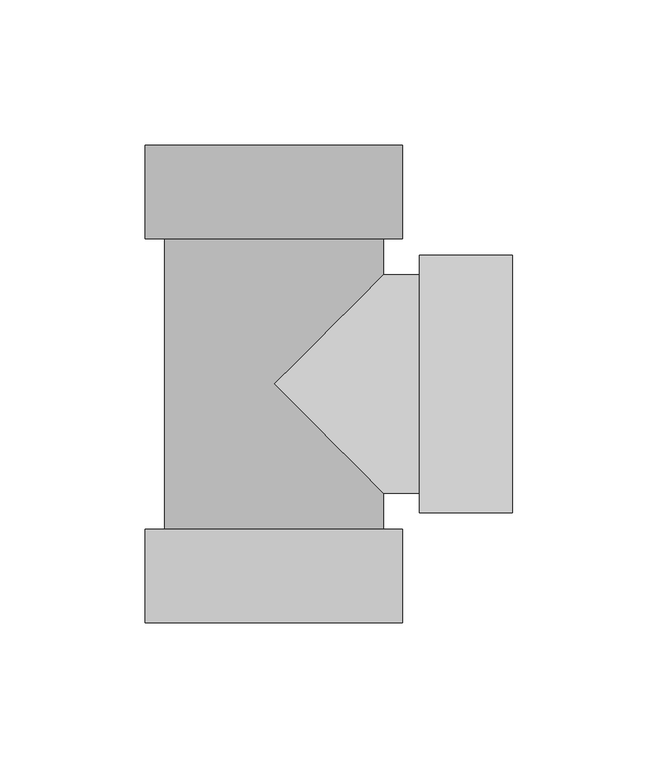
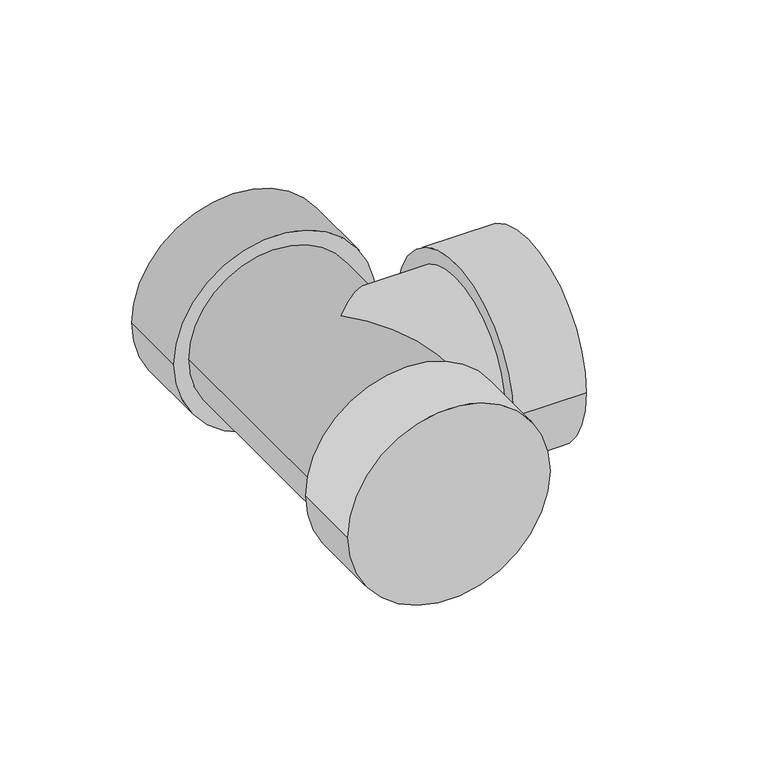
"""IFC4 building model written with IfcOpenShell, lengths in millimetres: pipe fitting geometry, 01011003 : Tê a 90º."""

import ifcopenshell
import ifcopenshell.guid

model = None  # the IFC model being written
_history = None  # IfcOwnerHistory: only IFC2X3 demands one
_inside = {}  # id of a spatial element -> (the spatial element, [elements in it])
_under = {}  # id of a project, library or spatial element -> (it, [spatial elements below it])
_declared = {}  # id of a project -> (the project, [libraries it declares])
_typed = {}  # id of a type object -> (the type object, [elements of that type])
_made_of = {}  # id of a material, layer set ... -> (it, [elements and type objects made of it])


def new_model(schema):
    """Start an empty IFC model of exactly this schema.

    Asked for "IFC4X3", IfcOpenShell would pick the latest addendum, in which some entities
    have other attributes; the version numbers below select the first issue.
    IFC2X3 requires an IfcOwnerHistory on every rooted entity: one is made here for all.
    """
    global model, _history
    if schema == "IFC4X3":
        model = ifcopenshell.file(schema_version=(4, 3, 0, 0))
    else:
        model = ifcopenshell.file(schema=schema)
    _inside.clear()
    _under.clear()
    _declared.clear()
    _typed.clear()
    _made_of.clear()
    _history = None
    if model.schema == "IFC2X3":
        org = make("IfcOrganization", Name="unknown")
        user = make(
            "IfcPersonAndOrganization",
            ThePerson=make("IfcPerson", FamilyName="unknown"),
            TheOrganization=org,
        )
        app = make(
            "IfcApplication",
            ApplicationDeveloper=org,
            Version="unknown",
            ApplicationFullName="unknown",
            ApplicationIdentifier="unknown",
        )
        _history = make(
            "IfcOwnerHistory",
            OwningUser=user,
            OwningApplication=app,
            ChangeAction="ADDED",
            CreationDate=0,
        )
    return model


def make(cls, **values):
    """One entity of the class cls with the attributes given. An attribute that is None is left unset."""
    return model.create_entity(
        cls, **{name: value for name, value in values.items() if value is not None}
    )


def rooted(cls, **values):
    """An entity with a GlobalId (a new one), such as an element, a storey or a relation."""
    return make(cls, GlobalId=ifcopenshell.guid.new(), OwnerHistory=_history, **values)


def si_unit(unit_type, name, prefix=None):
    """IfcSIUnit, for example si_unit("LENGTHUNIT", "METRE", prefix="MILLI")."""
    return make("IfcSIUnit", UnitType=unit_type, Prefix=prefix, Name=name)


def assignment(units):
    """IfcUnitAssignment: the units of a project."""
    return None if units is None else make("IfcUnitAssignment", Units=units)


def point(xyz):
    """IfcCartesianPoint."""
    return None if xyz is None else make("IfcCartesianPoint", Coordinates=xyz)


def direction(xyz):
    """IfcDirection."""
    return None if xyz is None else make("IfcDirection", DirectionRatios=xyz)


def frame(location, z_axis=None, x_axis=None):
    """IfcAxis2Placement3D, a coordinate frame: its origin and axes. An axis left out is left unset."""
    return make(
        "IfcAxis2Placement3D",
        Location=point(location),
        Axis=direction(z_axis),
        RefDirection=direction(x_axis),
    )


def frame_2d(location, x_axis=None):
    """IfcAxis2Placement2D, a coordinate frame in the plane: its origin and x axis."""
    return make(
        "IfcAxis2Placement2D", Location=point(location), RefDirection=direction(x_axis)
    )


def origin():
    """The frame at (0, 0, 0) with its axes left unset."""
    return frame((0.0, 0.0, 0.0))


def origin_2d():
    """The frame at (0, 0) in the plane with its x axis left unset."""
    return frame_2d((0.0, 0.0))


def place(relative_to, where):
    """IfcLocalPlacement: puts the frame where relative to a parent placement (None: the world)."""
    return make(
        "IfcLocalPlacement", PlacementRelTo=relative_to, RelativePlacement=where
    )


def context(
    kind, dimensions, precision=None, world=None, true_north=None, identifier=None
):
    """IfcGeometricRepresentationContext, for example the 3D "Model" context."""
    return make(
        "IfcGeometricRepresentationContext",
        ContextIdentifier=identifier,
        ContextType=kind,
        CoordinateSpaceDimension=dimensions,
        Precision=precision,
        WorldCoordinateSystem=world,
        TrueNorth=true_north,
    )


def project(units=None, contexts=None):
    """IfcProject with its units and contexts."""
    return rooted(
        "IfcProject",
        Name="project",
        RepresentationContexts=contexts,
        UnitsInContext=assignment(units),
    )


def spatial(cls, under=None, at=None, **own):
    """A site, building, storey or space (cls), placed at a placement, below another one or the project."""
    s = rooted(cls, ObjectPlacement=at, **own)
    if under is not None:
        _under.setdefault(under.id(), (under, []))[1].append(s)
    return s


def circle_curve(where, radius):
    """IfcCircle in the frame where."""
    return make("IfcCircle", Position=where, Radius=radius)


def ellipse_curve(where, semi_axis1, semi_axis2):
    """IfcEllipse in the frame where."""
    return make(
        "IfcEllipse", Position=where, SemiAxis1=semi_axis1, SemiAxis2=semi_axis2
    )


def trimmed(basis, trim1, trim2, sense, master):
    """IfcTrimmedCurve: the piece of a basis curve between two trims."""
    return make(
        "IfcTrimmedCurve",
        BasisCurve=basis,
        Trim1=trim1,
        Trim2=trim2,
        SenseAgreement=sense,
        MasterRepresentation=master,
    )


def segment(curve, same_sense, transition):
    """IfcCompositeCurveSegment."""
    return make(
        "IfcCompositeCurveSegment",
        Transition=transition,
        SameSense=same_sense,
        ParentCurve=curve,
    )


def composite_curve(segments, self_intersect=None):
    """IfcCompositeCurve: segments joined end to end."""
    return make("IfcCompositeCurve", Segments=segments, SelfIntersect=self_intersect)


def outline(outer, holes=None, kind="AREA"):
    """IfcArbitraryClosedProfileDef: a profile drawn as a closed curve; with holes, ...WithVoids."""
    if holes is None:
        return make("IfcArbitraryClosedProfileDef", ProfileType=kind, OuterCurve=outer)
    return make(
        "IfcArbitraryProfileDefWithVoids",
        ProfileType=kind,
        OuterCurve=outer,
        InnerCurves=holes,
    )


def extrude(swept, where, along, depth):
    """IfcExtrudedAreaSolid: the profile swept, set in the frame where, extruded along a direction by depth."""
    return make(
        "IfcExtrudedAreaSolid",
        SweptArea=swept,
        Position=where,
        ExtrudedDirection=direction(along),
        Depth=depth,
    )


def shape(context_of_items, identifier, shape_type, items):
    """IfcShapeRepresentation: the items that make up one representation, for example the "Body"."""
    return make(
        "IfcShapeRepresentation",
        ContextOfItems=context_of_items,
        RepresentationIdentifier=identifier,
        RepresentationType=shape_type,
        Items=items,
    )


def source(mapping_origin, context_of_items, identifier, shape_type, items):
    """IfcRepresentationMap: a shape defined once, which mapped items show again and again."""
    return make(
        "IfcRepresentationMap",
        MappingOrigin=mapping_origin,
        MappedRepresentation=shape(context_of_items, identifier, shape_type, items),
    )


def transform(
    local_origin,
    x_axis=None,
    y_axis=None,
    z_axis=None,
    scale=None,
    scale2=None,
    scale3=None,
    uniform=True,
):
    """IfcCartesianTransformationOperator3D, or its non-uniform kind. x_axis, y_axis, z_axis: its Axis1, 2, 3."""
    if uniform:
        return make(
            "IfcCartesianTransformationOperator3D",
            Axis1=direction(x_axis),
            Axis2=direction(y_axis),
            LocalOrigin=point(local_origin),
            Scale=scale,
            Axis3=direction(z_axis),
        )
    return make(
        "IfcCartesianTransformationOperator3DnonUniform",
        Axis1=direction(x_axis),
        Axis2=direction(y_axis),
        LocalOrigin=point(local_origin),
        Scale=scale,
        Axis3=direction(z_axis),
        Scale2=scale2,
        Scale3=scale3,
    )


def mapped(mapping_source, mapping_target):
    """IfcMappedItem: shows the shape of a source again, moved by a transform."""
    return make(
        "IfcMappedItem", MappingSource=mapping_source, MappingTarget=mapping_target
    )


def made_of(thing, what):
    """Note that an element or type object is made of a material, layer set ...; save() writes the relation."""
    if what is not None:
        _made_of.setdefault(what.id(), (what, []))[1].append(thing)
    return thing


def element(
    cls,
    number,
    at=None,
    inside=None,
    cuts=None,
    type_object=None,
    material=None,
    context=None,
    identifier="Body",
    shape_type=None,
    held_by="IfcProductDefinitionShape",
    body=None,
    shapes=None,
    **own,
):
    """One element of the class cls, such as IfcWall. Its Tag is "e" and its number.

    at: its placement. inside: the storey or other place that contains it. cuts: it is an
    opening in that element (IfcRelVoidsElement). A single representation is given by context,
    identifier, shape_type and body (its items); several are given by shapes. held_by: the class
    of the entity that holds the representations. save() writes the other relations.
    """
    e = rooted(cls, Tag="e%d" % number, ObjectPlacement=at, **own)
    if body is not None:
        shapes = [shape(context, identifier, shape_type, body)]
    if shapes is not None:
        e.Representation = make(held_by, Representations=shapes)
    if inside is not None:
        _inside.setdefault(inside.id(), (inside, []))[1].append(e)
    if cuts is not None:
        rooted(
            "IfcRelVoidsElement", RelatingBuildingElement=cuts, RelatedOpeningElement=e
        )
    if type_object is not None:
        _typed.setdefault(type_object.id(), (type_object, []))[1].append(e)
    return made_of(e, material)


def aggregate(whole, parts):
    """IfcRelAggregates: a whole, such as a stair, and the parts it consists of."""
    return rooted("IfcRelAggregates", RelatingObject=whole, RelatedObjects=parts)


def save(model, path):
    """Write the relations noted so far, then the file.

    IfcRelAggregates (storeys below a building ...), IfcRelContainedInSpatialStructure (elements
    in a storey), IfcRelDefinesByType, IfcRelAssociatesMaterial and IfcRelDeclares: one each for
    every whole, place, type object, material and project.
    """
    for whole, parts in _under.values():
        aggregate(whole, parts)
    for where, things in _inside.values():
        rooted(
            "IfcRelContainedInSpatialStructure",
            RelatedElements=things,
            RelatingStructure=where,
        )
    for kind, things in _typed.values():
        rooted("IfcRelDefinesByType", RelatedObjects=things, RelatingType=kind)
    for what, things in _made_of.values():
        rooted("IfcRelAssociatesMaterial", RelatedObjects=things, RelatingMaterial=what)
    for by, libraries in _declared.values():
        rooted("IfcRelDeclares", RelatingContext=by, RelatedDefinitions=libraries)
    model.write(path)


def plane_surface(at):
    """IfcPlane: the flat surface through the origin of the frame at, square to its z axis."""
    return make("IfcPlane", Position=at)


def cylinder_surface(at, radius):
    """IfcCylindricalSurface: all points at the distance radius from the z axis of the frame at."""
    return make("IfcCylindricalSurface", Position=at, Radius=radius)


def advanced_brep(points, edges, surfaces, faces):
    """IfcAdvancedBrep: a solid bounded by faces that lie on surfaces and meet in shared edges.

    An edge is (start, end): straight between two places in points (the first is 0);
    or (start, end, curve); or (start, end, curve, False) where it runs against its curve.
    A face is (place in surfaces, loops), or (place, loops, False) where it looks against
    its surface's normal. A loop lists edges by number (the first is 1), with a minus sign
    where the edge is run from its end to its start. The first loop is the outer one.
    """
    corners = [point(p) for p in points]
    vertices = [make("IfcVertexPoint", VertexGeometry=c) for c in corners]
    made = []
    for start, end, *more in edges:
        made.append(
            make(
                "IfcEdgeCurve",
                EdgeStart=vertices[start],
                EdgeEnd=vertices[end],
                EdgeGeometry=more[0] if more else make("IfcPolyline", Points=[corners[start], corners[end]]),
                SameSense=more[1] if len(more) > 1 else True,
            )
        )
    hull = []
    for where, loops, *sense in faces:
        bounds = []
        for j, loop in enumerate(loops):
            ring = [make("IfcOrientedEdge", EdgeElement=made[abs(k) - 1], Orientation=k > 0) for k in loop]
            bounds.append(
                make(
                    "IfcFaceOuterBound" if j == 0 else "IfcFaceBound",
                    Bound=make("IfcEdgeLoop", EdgeList=ring),
                    Orientation=True,
                )
            )
        hull.append(make("IfcAdvancedFace", Bounds=bounds, FaceSurface=surfaces[where], SameSense=sense[0] if sense else True))
    return make("IfcAdvancedBrep", Outer=make("IfcClosedShell", CfsFaces=hull))


def pipe_fitting_358bd5af(model_context):
    return source(origin(), model_context, "Body", "SolidModel", [
        advanced_brep(
        [(-37.6125, 52.0, 0.0), (37.6125, 52.0, 0.0), (-37.6125, -52.0, 0.0), (37.6125, -52.0, 0.0), (37.6125, -37.6125, 0.0), (0.0, 0.0, 37.6125), (37.6125, 37.6125, 0.0), (0.0, 0.0, -37.6125), (52.0, 37.6125, 0.0), (52.0, -37.6125, 0.0)],
        [
            (0, 1, circle_curve(frame((0.0, 52.0, 0.0), z_axis=(0.0, 1.0, 0.0), x_axis=(1.0, 0.0, 0.0)), 37.6125)),
            (1, 0, circle_curve(frame((0.0, 52.0, 0.0), z_axis=(0.0, 1.0, 0.0), x_axis=(1.0, 0.0, 0.0)), 37.6125)),
            (2, 3, circle_curve(frame((0.0, -52.0, 0.0), z_axis=(0.0, -1.0, 0.0), x_axis=(1.0, 0.0, 0.0)), 37.6125)),
            (3, 2, circle_curve(frame((0.0, -52.0, 0.0), z_axis=(0.0, -1.0, 0.0), x_axis=(1.0, 0.0, 0.0)), 37.6125)),
            (0, 2),
            (3, 4),
            (4, 5, ellipse_curve(frame((0.0, 0.0, 0.0), z_axis=(-0.7071067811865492, -0.7071067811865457, 0.0), x_axis=(-0.7071067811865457, 0.7071067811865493, 0.0)), 53.1921076, 37.6125)),
            (5, 6, ellipse_curve(frame((0.0, 0.0, 0.0), z_axis=(-0.7071067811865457, 0.7071067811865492, 0.0), x_axis=(0.7071067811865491, 0.7071067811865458, 0.0)), 53.1921076, 37.6125)),
            (6, 1),
            (6, 7, ellipse_curve(frame((0.0, 0.0, 0.0), z_axis=(-0.7071067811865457, 0.7071067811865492, 0.0), x_axis=(0.7071067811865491, 0.7071067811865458, 0.0)), 53.1921076, 37.6125)),
            (7, 4, ellipse_curve(frame((0.0, 0.0, 0.0), z_axis=(-0.7071067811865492, -0.7071067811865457, 0.0), x_axis=(-0.7071067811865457, 0.7071067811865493, 0.0)), 53.1921076, 37.6125)),
            (8, 9, circle_curve(frame((52.0, 0.0, 0.0), z_axis=(1.0, 0.0, 0.0), x_axis=(0.0, -1.0, 0.0)), 37.6125)),
            (9, 8, circle_curve(frame((52.0, 0.0, 0.0), z_axis=(1.0, 0.0, 0.0), x_axis=(0.0, -1.0, 0.0)), 37.6125)),
            (8, 6),
            (4, 9),
        ],
        [
            plane_surface(frame((0.0, 52.0, 0.0), z_axis=(0.0, 1.0, 0.0), x_axis=(0.0, 0.0, 1.0))),
            plane_surface(frame((0.0, -52.0, 0.0), z_axis=(0.0, -1.0, 0.0), x_axis=(0.0, 0.0, 1.0))),
            cylinder_surface(frame((0.0, 52.0, 0.0), z_axis=(0.0, 1.0, 0.0), x_axis=(1.0, 0.0, 0.0)), 37.6125),
            plane_surface(frame((52.0, 0.0, 0.0), z_axis=(1.0, 0.0, 0.0), x_axis=(0.0, 0.0, 1.0))),
            cylinder_surface(frame((52.0, 0.0, 0.0), z_axis=(1.0, 0.0, 0.0), x_axis=(0.0, -1.0, 0.0)), 37.6125),
        ],
        [
            (0, [[1, 2]]),
            (1, [[3, 4]]),
            (2, [[-1, 5, -4, 6, 7, 8, 9]]),
            (2, [[-2, -9, 10, 11, -6, -3, -5]]),
            (3, [[12, 13]]),
            (4, [[-12, 14, -8, -7, 15]]),
            (4, [[-13, -15, -11, -10, -14]]),
        ],
    ),
        extrude(outline(composite_curve([segment(trimmed(circle_curve(origin_2d(), 44.25), [point((0.0, -44.25))], [point((0.0, 44.25))], False, "CARTESIAN"), True, "CONTINUOUS"), segment(trimmed(circle_curve(origin_2d(), 44.25), [point((0.0, 44.25))], [point((0.0, -44.25))], False, "CARTESIAN"), True, "CONTINUOUS")], self_intersect=False)), frame((0.0, 50.0, 0.0), z_axis=(0.0, 1.0, 0.0), x_axis=(0.0, 0.0, 1.0)), (0.0, 0.0, 1.0), 32.0),
        extrude(outline(composite_curve([segment(trimmed(circle_curve(origin_2d(), 44.25), [point((0.0, 44.25))], [point((0.0, -44.25))], False, "CARTESIAN"), True, "CONTINUOUS"), segment(trimmed(circle_curve(origin_2d(), 44.25), [point((0.0, -44.25))], [point((0.0, 44.25))], False, "CARTESIAN"), True, "CONTINUOUS")], self_intersect=False)), frame((0.0, -82.0, 0.0), z_axis=(0.0, 1.0, 0.0), x_axis=(0.0, 0.0, 1.0)), (0.0, 0.0, 1.0), 32.0),
        extrude(outline(composite_curve([segment(trimmed(circle_curve(origin_2d(), 44.25), [point((44.25, 0.0))], [point((-44.25, 0.0))], False, "CARTESIAN"), True, "CONTINUOUS"), segment(trimmed(circle_curve(origin_2d(), 44.25), [point((-44.25, 0.0))], [point((44.25, 0.0))], False, "CARTESIAN"), True, "CONTINUOUS")], self_intersect=False)), frame((50.0, 0.0, 0.0), z_axis=(1.0, 0.0, 0.0), x_axis=(0.0, 1.0, 0.0)), (0.0, 0.0, 1.0), 32.0),
    ])


if __name__ == "__main__":
    model = new_model("IFC4")
    model_context = context("Model", 3, world=origin())
    ifc_project = project(units=[si_unit("LENGTHUNIT", "METRE", prefix="MILLI")], contexts=[model_context])
    site = spatial("IfcSite", under=ifc_project)
    building = spatial("IfcBuilding", under=site)
    placement = place(None, origin())
    pipe_fitting_shape = pipe_fitting_358bd5af(model_context)
    element("IfcPipeFitting", 1, ObjectType="01011003 : Tê a 90º", at=placement, inside=building, context=model_context, shape_type="MappedRepresentation", body=[
        mapped(pipe_fitting_shape, transform((0.0, 0.0, 0.0), x_axis=(1.0, 0.0, 0.0), y_axis=(0.0, 1.0, 0.0), z_axis=(0.0, 0.0, 1.0))),
    ])
    save(model, "model.ifc")
